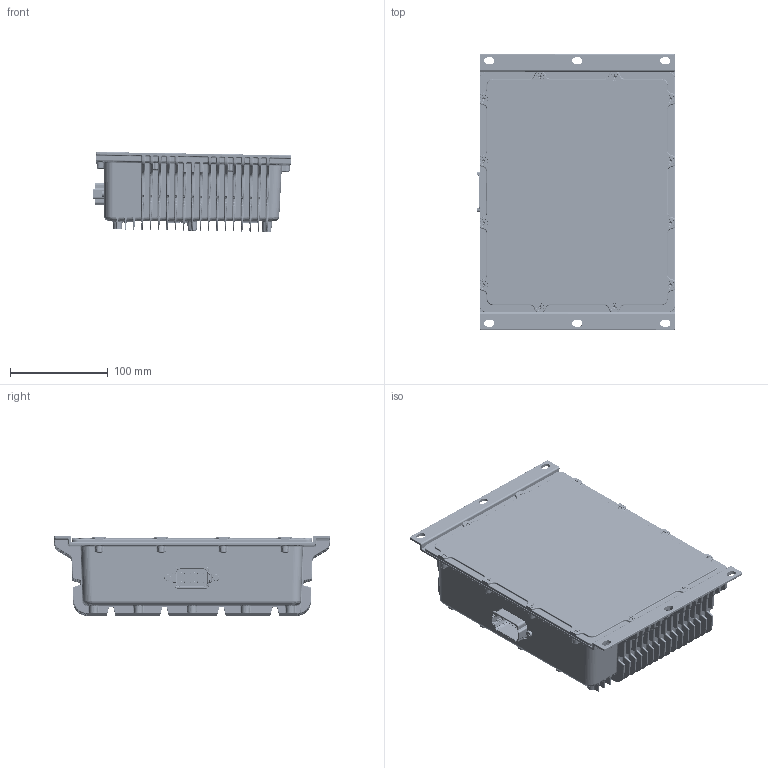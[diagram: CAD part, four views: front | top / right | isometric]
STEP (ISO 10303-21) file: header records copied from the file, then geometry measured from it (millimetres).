
FILE_DESCRIPTION(/* description */ (''),/* implementation_level */ '2;1');
FILE_NAME(/* name */ 'C:\Users\azhao\Documents\21035\MECHANICAL\Rev 1\FG-AX081860_Shrinkwrap_1.stp',/* time_stamp */ '2022-10-04T12:21:51-04:00',/* author */ ('azhao'),/* organization */ (''),/* preprocessor_version */ 'ST-DEVELOPER v17',/* originating_system */ 'Autodesk Inventor 2018',/* authorisation */ '');
FILE_SCHEMA (('AUTOMOTIVE_DESIGN { 1 0 10303 214 3 1 1 }'));
Products named in the file (1): FG-AX081860_Shrinkwrap_1
Bounding box: 202.88 x 282.36 x 82.07 mm (x, y, z)
Volume: 701227.1 mm3; surface area: 447763.6 mm2
Topology: 4 solids, 35 shells, 8924 faces, 21179 edges, 12345 vertices
Faces by surface type: cylinder 3056, bspline 2171, plane 1968, torus 654, sphere 589, cone 486
Full cylindrical faces by diameter (mm): 1.567 x42, 2.794 x9, 3.175 x7, 3.251 x68, 3.937 x2, 4 x48, 4.496 x12, 6.604 x7, 6.858 x2, 8.128 x2
Entity records: 384012 total; most frequent: CARTESIAN_POINT 178480, ORIENTED_EDGE 42074, DIRECTION 40489, EDGE_CURVE 21037, AXIS2_PLACEMENT_3D 15950, VERTEX_POINT 12345, EDGE_LOOP 9148, FACE_OUTER_BOUND 8924
